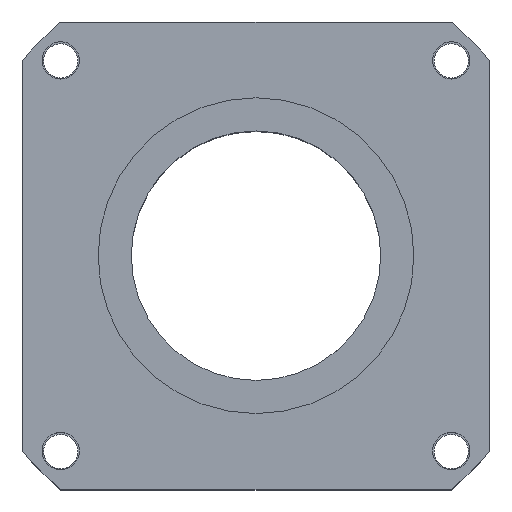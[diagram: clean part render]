
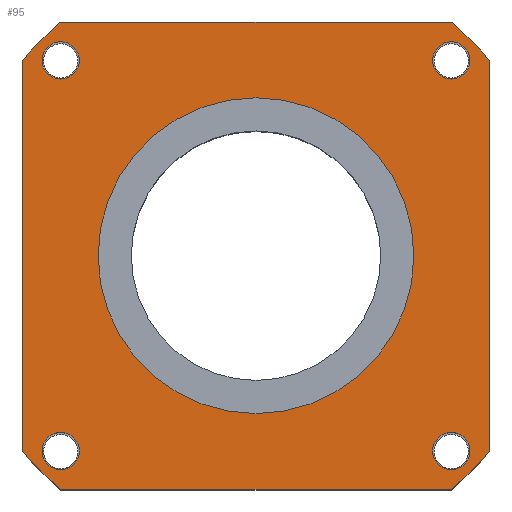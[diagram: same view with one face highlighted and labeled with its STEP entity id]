
A CAD part, top view. The second image highlights one B-rep face of the part: STEP entity #95.
In plain terms, the highlighted planar face has unit normal (0, 0, 1).
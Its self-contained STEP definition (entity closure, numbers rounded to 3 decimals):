
#95=ADVANCED_FACE('',(#691,#693,#695,#697,#699,#701),#703,.T.);
#691=FACE_BOUND('',#692,.T.);
#692=EDGE_LOOP('',(#3256,#3257,#3258,#3259,#3260,#3261,#3262,#3263));
#693=FACE_BOUND('',#694,.T.);
#694=EDGE_LOOP('',(#3264));
#695=FACE_BOUND('',#696,.T.);
#696=EDGE_LOOP('',(#3265));
#697=FACE_BOUND('',#698,.T.);
#698=EDGE_LOOP('',(#3266));
#699=FACE_BOUND('',#700,.T.);
#700=EDGE_LOOP('',(#3267));
#701=FACE_BOUND('',#702,.T.);
#702=EDGE_LOOP('',(#3268));
#703=PLANE('',#704);
#704=AXIS2_PLACEMENT_3D('',#705,#706,#707);
#705=CARTESIAN_POINT('',(0.,-64.,10.));
#706=DIRECTION('',(0.,0.,1.));
#707=DIRECTION('',(0.,1.,0.));
#3256=ORIENTED_EDGE('',*,*,#3338,.T.);
#3257=ORIENTED_EDGE('',*,*,#3352,.T.);
#3258=ORIENTED_EDGE('',*,*,#3350,.T.);
#3259=ORIENTED_EDGE('',*,*,#3349,.T.);
#3260=ORIENTED_EDGE('',*,*,#3346,.T.);
#3261=ORIENTED_EDGE('',*,*,#3345,.T.);
#3262=ORIENTED_EDGE('',*,*,#3342,.T.);
#3263=ORIENTED_EDGE('',*,*,#3341,.T.);
#3264=ORIENTED_EDGE('',*,*,#3353,.T.);
#3265=ORIENTED_EDGE('',*,*,#3354,.T.);
#3266=ORIENTED_EDGE('',*,*,#3355,.T.);
#3267=ORIENTED_EDGE('',*,*,#3356,.T.);
#3268=ORIENTED_EDGE('',*,*,#3358,.T.);
#3338=EDGE_CURVE('',#3485,#3483,#3486,.T.);
#3341=EDGE_CURVE('',#3488,#3485,#3490,.T.);
#3342=EDGE_CURVE('',#3491,#3488,#3492,.T.);
#3345=EDGE_CURVE('',#3494,#3491,#3496,.T.);
#3346=EDGE_CURVE('',#3497,#3494,#3498,.T.);
#3349=EDGE_CURVE('',#3500,#3497,#3502,.T.);
#3350=EDGE_CURVE('',#3503,#3500,#3504,.T.);
#3352=EDGE_CURVE('',#3483,#3503,#3506,.T.);
#3353=EDGE_CURVE('',#3507,#3507,#3508,.F.);
#3354=EDGE_CURVE('',#3509,#3509,#3510,.F.);
#3355=EDGE_CURVE('',#3511,#3511,#3512,.F.);
#3356=EDGE_CURVE('',#3513,#3513,#3514,.F.);
#3358=EDGE_CURVE('',#3517,#3517,#3518,.T.);
#3483=VERTEX_POINT('',#4343);
#3485=VERTEX_POINT('',#4347);
#3486=CIRCLE('',#4348,36.75);
#3488=VERTEX_POINT('',#4355);
#3490=LINE('',#4359,#4360);
#3491=VERTEX_POINT('',#4362);
#3492=CIRCLE('',#4363,36.75);
#3494=VERTEX_POINT('',#4370);
#3496=LINE('',#4374,#4375);
#3497=VERTEX_POINT('',#4377);
#3498=CIRCLE('',#4378,36.75);
#3500=VERTEX_POINT('',#4385);
#3502=LINE('',#4389,#4390);
#3503=VERTEX_POINT('',#4392);
#3504=CIRCLE('',#4393,36.75);
#3506=LINE('',#4400,#4401);
#3507=VERTEX_POINT('',#4403);
#3508=CIRCLE('',#4404,2.25);
#3509=VERTEX_POINT('',#4408);
#3510=CIRCLE('',#4409,2.25);
#3511=VERTEX_POINT('',#4413);
#3512=CIRCLE('',#4414,2.25);
#3513=VERTEX_POINT('',#4418);
#3514=CIRCLE('',#4419,2.25);
#3517=VERTEX_POINT('',#4428);
#3518=CIRCLE('',#4429,19.05);
#4343=CARTESIAN_POINT('',(28.2,-87.565,10.));
#4347=CARTESIAN_POINT('',(23.565,-92.2,10.));
#4348=AXIS2_PLACEMENT_3D('',#4349,#4350,#4351);
#4349=CARTESIAN_POINT('',(0.,-64.,10.));
#4350=DIRECTION('',(0.,0.,1.));
#4351=DIRECTION('',(0.641,-0.767,0.));
#4355=CARTESIAN_POINT('',(-23.565,-92.2,10.));
#4359=CARTESIAN_POINT('',(-23.565,-92.2,10.));
#4360=VECTOR('',#4361,1.);
#4361=DIRECTION('',(1.,0.,0.));
#4362=CARTESIAN_POINT('',(-28.2,-87.565,10.));
#4363=AXIS2_PLACEMENT_3D('',#4364,#4365,#4366);
#4364=CARTESIAN_POINT('',(0.,-64.,10.));
#4365=DIRECTION('',(0.,0.,1.));
#4366=DIRECTION('',(-0.767,-0.641,0.));
#4370=CARTESIAN_POINT('',(-28.2,-40.435,10.));
#4374=CARTESIAN_POINT('',(-28.2,-40.435,10.));
#4375=VECTOR('',#4376,1.);
#4376=DIRECTION('',(0.,-1.,0.));
#4377=CARTESIAN_POINT('',(-23.565,-35.8,10.));
#4378=AXIS2_PLACEMENT_3D('',#4379,#4380,#4381);
#4379=CARTESIAN_POINT('',(0.,-64.,10.));
#4380=DIRECTION('',(0.,0.,1.));
#4381=DIRECTION('',(-0.641,0.767,0.));
#4385=CARTESIAN_POINT('',(23.565,-35.8,10.));
#4389=CARTESIAN_POINT('',(23.565,-35.8,10.));
#4390=VECTOR('',#4391,1.);
#4391=DIRECTION('',(-1.,0.,0.));
#4392=CARTESIAN_POINT('',(28.2,-40.435,10.));
#4393=AXIS2_PLACEMENT_3D('',#4394,#4395,#4396);
#4394=CARTESIAN_POINT('',(0.,-64.,10.));
#4395=DIRECTION('',(0.,0.,1.));
#4396=DIRECTION('',(0.767,0.641,0.));
#4400=CARTESIAN_POINT('',(28.2,-87.565,10.));
#4401=VECTOR('',#4402,1.);
#4402=DIRECTION('',(0.,1.,0.));
#4403=CARTESIAN_POINT('',(23.57,-38.18,10.));
#4404=AXIS2_PLACEMENT_3D('',#4405,#4406,#4407);
#4405=CARTESIAN_POINT('',(23.57,-40.43,10.));
#4406=DIRECTION('',(0.,0.,1.));
#4407=DIRECTION('',(0.,1.,0.));
#4408=CARTESIAN_POINT('',(-23.57,-38.18,10.));
#4409=AXIS2_PLACEMENT_3D('',#4410,#4411,#4412);
#4410=CARTESIAN_POINT('',(-23.57,-40.43,10.));
#4411=DIRECTION('',(0.,0.,1.));
#4412=DIRECTION('',(0.,1.,0.));
#4413=CARTESIAN_POINT('',(-23.57,-85.32,10.));
#4414=AXIS2_PLACEMENT_3D('',#4415,#4416,#4417);
#4415=CARTESIAN_POINT('',(-23.57,-87.57,10.));
#4416=DIRECTION('',(0.,0.,1.));
#4417=DIRECTION('',(0.,1.,0.));
#4418=CARTESIAN_POINT('',(23.57,-85.32,10.));
#4419=AXIS2_PLACEMENT_3D('',#4420,#4421,#4422);
#4420=CARTESIAN_POINT('',(23.57,-87.57,10.));
#4421=DIRECTION('',(0.,0.,1.));
#4422=DIRECTION('',(0.,1.,0.));
#4428=CARTESIAN_POINT('',(0.,-44.95,10.));
#4429=AXIS2_PLACEMENT_3D('',#4430,#4431,#4432);
#4430=CARTESIAN_POINT('',(0.,-64.,10.));
#4431=DIRECTION('',(0.,0.,-1.));
#4432=DIRECTION('',(0.,1.,0.));
